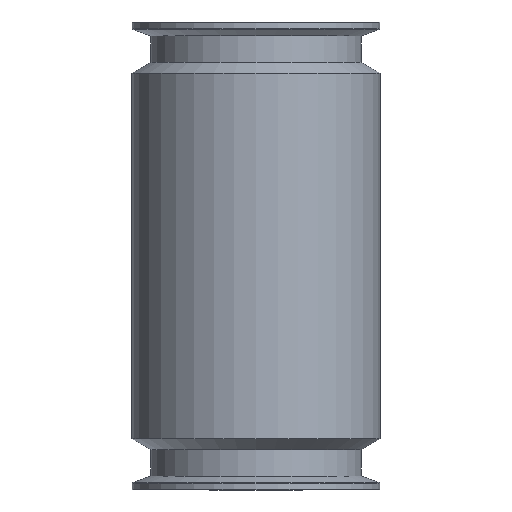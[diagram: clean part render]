
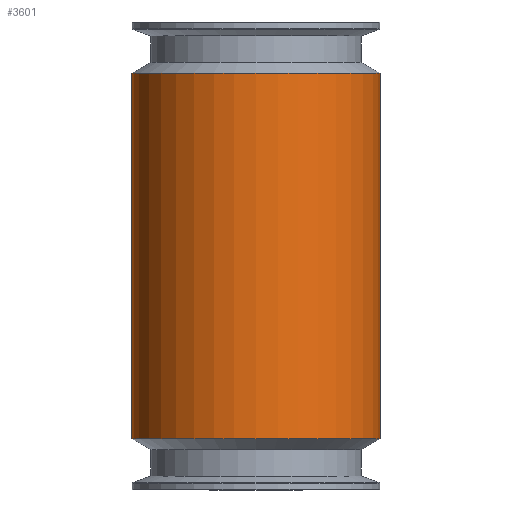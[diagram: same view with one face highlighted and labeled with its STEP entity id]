
A CAD part, front view. The second image highlights one B-rep face of the part: STEP entity #3601.
In plain terms, the highlighted cylindrical face has radius 53 mm (diameter 106 mm), a full revolution.
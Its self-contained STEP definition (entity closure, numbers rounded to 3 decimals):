
#2263=FACE_BOUND('',#5389,.T.);
#2264=FACE_BOUND('',#5390,.T.);
#2265=FACE_BOUND('',#5391,.T.);
#2456=CYLINDRICAL_SURFACE('',#15579,53.);
#2828=CIRCLE('',#15577,53.);
#2829=CIRCLE('',#15578,53.);
#3601=ADVANCED_FACE('',(#2263,#2264,#2265),#2456,.T.);
#5389=EDGE_LOOP('',(#9597));
#5390=EDGE_LOOP('',(#9598));
#5391=EDGE_LOOP('',(#9599,#9600,#9601,#9602));
#6147=B_SPLINE_CURVE_WITH_KNOTS('',3,(#32217,#32218,#32219,#32220,#32221,
#32222,#32223,#32224,#32225,#32226),.UNSPECIFIED.,.F.,.F.,(4,2,2,2,4),(0.,
0.25,0.5,0.75,1.),.UNSPECIFIED.);
#6148=B_SPLINE_CURVE_WITH_KNOTS('',3,(#32230,#32231,#32232,#32233,#32234,
#32235,#32236,#32237,#32238,#32239),.UNSPECIFIED.,.F.,.F.,(4,2,2,2,4),(0.,
0.25,0.5,0.75,1.),.UNSPECIFIED.);
#9597=ORIENTED_EDGE('',*,*,#12793,.T.);
#9598=ORIENTED_EDGE('',*,*,#12794,.T.);
#9599=ORIENTED_EDGE('',*,*,#12795,.F.);
#9600=ORIENTED_EDGE('',*,*,#12796,.T.);
#9601=ORIENTED_EDGE('',*,*,#12797,.F.);
#9602=ORIENTED_EDGE('',*,*,#12798,.T.);
#10987=VERTEX_POINT('',#32211);
#10988=VERTEX_POINT('',#32213);
#10989=VERTEX_POINT('',#32215);
#10990=VERTEX_POINT('',#32216);
#10991=VERTEX_POINT('',#32227);
#10992=VERTEX_POINT('',#32229);
#12793=EDGE_CURVE('',#10987,#10987,#2828,.T.);
#12794=EDGE_CURVE('',#10988,#10988,#2829,.T.);
#12795=EDGE_CURVE('',#10989,#10990,#13721,.T.);
#12796=EDGE_CURVE('',#10989,#10991,#6147,.T.);
#12797=EDGE_CURVE('',#10992,#10991,#13722,.T.);
#12798=EDGE_CURVE('',#10992,#10990,#6148,.T.);
#13721=LINE('',#32214,#14688);
#13722=LINE('',#32228,#14689);
#14688=VECTOR('',#18417,1.);
#14689=VECTOR('',#18418,1.);
#15577=AXIS2_PLACEMENT_3D('',#32210,#18413,#18414);
#15578=AXIS2_PLACEMENT_3D('',#32212,#18415,#18416);
#15579=AXIS2_PLACEMENT_3D('',#32240,#18419,#18420);
#18413=DIRECTION('',(0.,0.,-1.));
#18414=DIRECTION('',(1.,0.,0.));
#18415=DIRECTION('',(0.,0.,1.));
#18416=DIRECTION('',(-1.,0.,0.));
#18417=DIRECTION('',(0.,0.,1.));
#18418=DIRECTION('',(0.,0.,-1.));
#18419=DIRECTION('',(0.,0.,-1.));
#18420=DIRECTION('',(1.,0.,0.));
#32210=CARTESIAN_POINT('',(-0.016,-36.,230.874));
#32211=CARTESIAN_POINT('',(52.984,-36.,230.874));
#32212=CARTESIAN_POINT('',(-0.016,-36.,74.642));
#32213=CARTESIAN_POINT('',(-53.016,-36.,74.642));
#32214=CARTESIAN_POINT('',(-14.438,15.,266.358));
#32215=CARTESIAN_POINT('',(-14.438,15.,137.139));
#32216=CARTESIAN_POINT('',(-14.438,15.,148.86));
#32217=CARTESIAN_POINT('',(-14.438,15.,137.139));
#32218=CARTESIAN_POINT('',(-13.247,15.337,134.301));
#32219=CARTESIAN_POINT('',(-11.212,15.868,131.896));
#32220=CARTESIAN_POINT('',(-6.133,16.709,128.561));
#32221=CARTESIAN_POINT('',(-3.108,17.,127.648));
#32222=CARTESIAN_POINT('',(3.065,17.,127.647));
#32223=CARTESIAN_POINT('',(6.106,16.708,128.563));
#32224=CARTESIAN_POINT('',(11.178,15.868,131.892));
#32225=CARTESIAN_POINT('',(13.214,15.337,134.302));
#32226=CARTESIAN_POINT('',(14.407,15.,137.14));
#32227=CARTESIAN_POINT('',(14.407,15.,137.14));
#32228=CARTESIAN_POINT('',(14.407,15.,266.358));
#32229=CARTESIAN_POINT('',(14.406,15.,148.86));
#32230=CARTESIAN_POINT('',(14.406,15.,148.86));
#32231=CARTESIAN_POINT('',(13.213,15.338,151.697));
#32232=CARTESIAN_POINT('',(11.181,15.868,154.107));
#32233=CARTESIAN_POINT('',(6.101,16.709,157.44));
#32234=CARTESIAN_POINT('',(3.075,17.,158.351));
#32235=CARTESIAN_POINT('',(-3.099,17.,158.354));
#32236=CARTESIAN_POINT('',(-6.138,16.708,157.436));
#32237=CARTESIAN_POINT('',(-11.211,15.868,154.107));
#32238=CARTESIAN_POINT('',(-13.245,15.337,151.698));
#32239=CARTESIAN_POINT('',(-14.438,15.,148.86));
#32240=CARTESIAN_POINT('',(-0.016,-36.,266.358));
